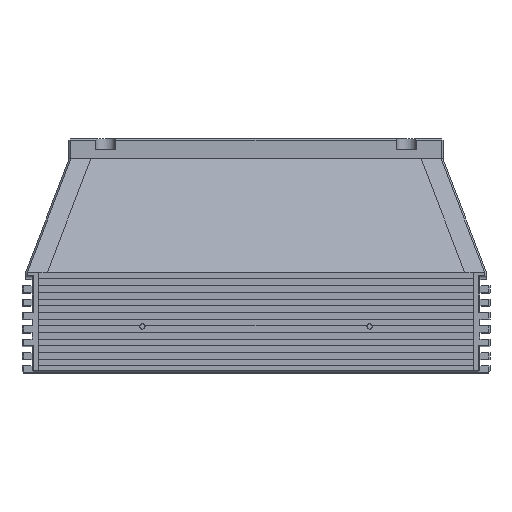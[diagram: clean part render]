
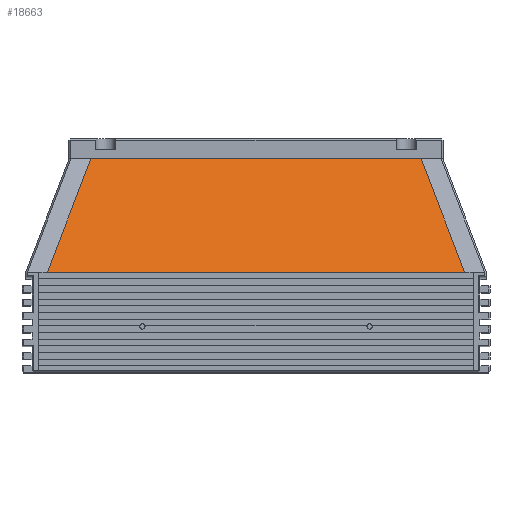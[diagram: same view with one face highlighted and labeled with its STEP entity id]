
A CAD part, top view. The second image highlights one B-rep face of the part: STEP entity #18663.
In plain terms, the highlighted planar face has unit normal (0, 0.358, 0.934).
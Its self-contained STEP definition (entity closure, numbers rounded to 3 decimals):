
#2080 = VERTEX_POINT ( 'NONE', #3652 ) ;
#2303 = EDGE_CURVE ( 'NONE', #2080, #3748, #21541, .T. ) ;
#2954 = LINE ( 'NONE', #25752, #24570 ) ;
#3652 = CARTESIAN_POINT ( 'NONE',  ( 109.491, -0.251, 305. ) ) ;
#3748 = VERTEX_POINT ( 'NONE', #21828 ) ;
#4254 = VERTEX_POINT ( 'NONE', #21615 ) ;
#4530 = DIRECTION ( 'NONE',  ( 0., -0.358, -0.934 ) ) ;
#7196 = LINE ( 'NONE', #15785, #19506 ) ;
#7356 = EDGE_LOOP ( 'NONE', ( #15593, #14326, #25303, #18388 ) ) ;
#7943 = EDGE_CURVE ( 'NONE', #4254, #21683, #7196, .T. ) ;
#8973 = LINE ( 'NONE', #20773, #18907 ) ;
#12827 = DIRECTION ( 'NONE',  ( 0., 0.934, -0.358 ) ) ;
#14326 = ORIENTED_EDGE ( 'NONE', *, *, #7943, .T. ) ;
#15057 = FACE_OUTER_BOUND ( 'NONE', #7356, .T. ) ;
#15475 = EDGE_CURVE ( 'NONE', #21683, #3748, #2954, .T. ) ;
#15593 = ORIENTED_EDGE ( 'NONE', *, *, #26975, .T. ) ;
#15785 = CARTESIAN_POINT ( 'NONE',  ( 112.061, 33.749, 291.949 ) ) ;
#16688 = DIRECTION ( 'NONE',  ( -1., 0., 0. ) ) ;
#17307 = PLANE ( 'NONE',  #21809 ) ;
#18388 = ORIENTED_EDGE ( 'NONE', *, *, #2303, .F. ) ;
#18663 = ADVANCED_FACE ( 'NONE', ( #15057 ), #17307, .F. ) ;
#18907 = VECTOR ( 'NONE', #20596, 1000. ) ;
#19045 = CARTESIAN_POINT ( 'NONE',  ( 112.061, 33.819, 291.922 ) ) ;
#19506 = VECTOR ( 'NONE', #26298, 1000. ) ;
#19564 = VECTOR ( 'NONE', #16688, 1000. ) ;
#20596 = DIRECTION ( 'NONE',  ( -0.337, 0.879, -0.337 ) ) ;
#20773 = CARTESIAN_POINT ( 'NONE',  ( 98.194, 29.18, 293.703 ) ) ;
#21541 = LINE ( 'NONE', #25076, #19564 ) ;
#21608 = DIRECTION ( 'NONE',  ( -0.337, -0.879, 0.337 ) ) ;
#21615 = CARTESIAN_POINT ( 'NONE',  ( 96.44, 33.749, 291.949 ) ) ;
#21683 = VERTEX_POINT ( 'NONE', #21735 ) ;
#21735 = CARTESIAN_POINT ( 'NONE',  ( -2.317, 33.749, 291.949 ) ) ;
#21809 = AXIS2_PLACEMENT_3D ( 'NONE', #19045, #4530, #12827 ) ;
#21828 = CARTESIAN_POINT ( 'NONE',  ( -15.369, -0.251, 305. ) ) ;
#24570 = VECTOR ( 'NONE', #21608, 1000. ) ;
#25076 = CARTESIAN_POINT ( 'NONE',  ( 112.061, -0.251, 305. ) ) ;
#25303 = ORIENTED_EDGE ( 'NONE', *, *, #15475, .T. ) ;
#25752 = CARTESIAN_POINT ( 'NONE',  ( 10.724, 67.723, 278.907 ) ) ;
#26298 = DIRECTION ( 'NONE',  ( -1., 0., 0. ) ) ;
#26975 = EDGE_CURVE ( 'NONE', #2080, #4254, #8973, .T. ) ;
